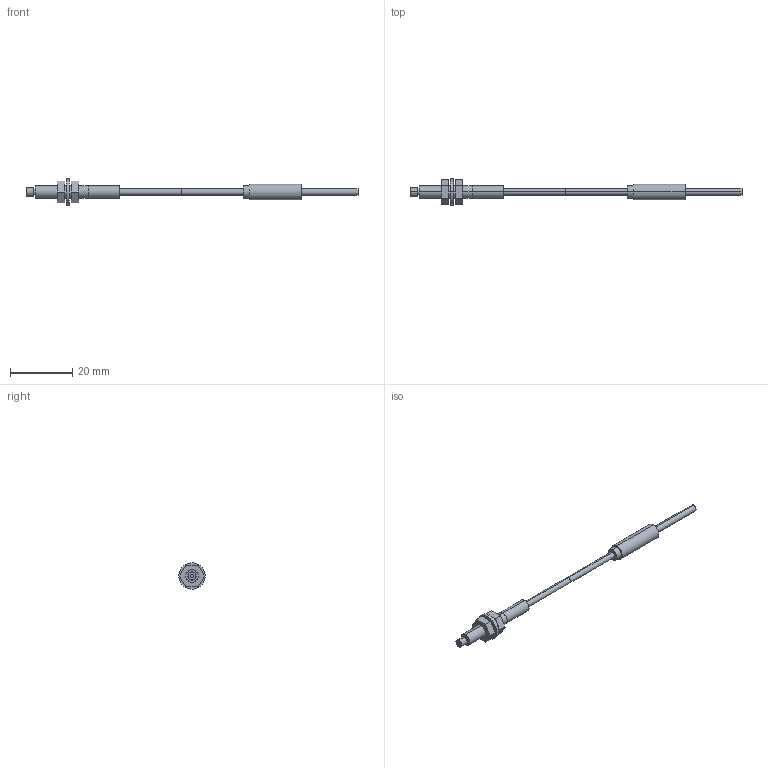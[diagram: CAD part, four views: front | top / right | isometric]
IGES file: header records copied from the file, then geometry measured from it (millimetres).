
Start section: SolidWorks IGES FILE using analytic representation for surfaces
Global section: file name: C:\Documents and Settings\yk0651\デスクトップ\3D_catalog_050929\0_IGES\FT-H35-M2.IGS; native system: SolidWorks 2004 by SolidWorks Corporation; preprocessor: Version 5.3; author: yk0651; date: 051002.180218; units: millimetre
Bounding box: 107 x 8.5 x 8.5 mm (x, y, z)
Volume: 1089.9 mm3; surface area: 1551.9 mm2
Topology: 7 solids, 7 shells, 60 faces, 120 edges, 80 vertices
Faces by surface type: plane 32, revolution 28
